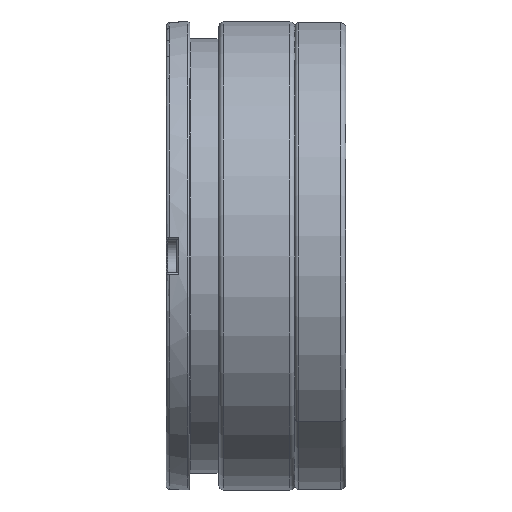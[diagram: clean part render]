
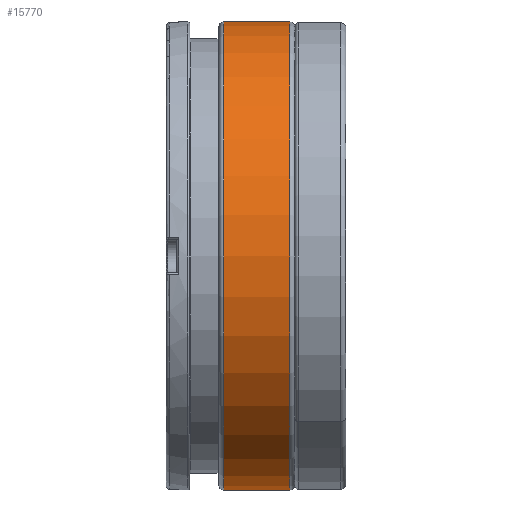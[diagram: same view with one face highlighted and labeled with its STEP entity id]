
A CAD part, front view. The second image highlights one B-rep face of the part: STEP entity #15770.
In plain terms, the highlighted cylindrical face has radius 69 mm (diameter 138 mm), a partial arc.
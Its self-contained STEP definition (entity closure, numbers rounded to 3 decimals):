
#2988 = ORIENTED_EDGE ( 'NONE', *, *, #27546, .T. ) ;
#3100 = FACE_OUTER_BOUND ( 'NONE', #25339, .T. ) ;
#4175 = DIRECTION ( 'NONE',  ( 0., 0., 1. ) ) ;
#5798 = DIRECTION ( 'NONE',  ( 1., 0., 0. ) ) ;
#7863 = DIRECTION ( 'NONE',  ( -1., 0., 0. ) ) ;
#8581 = ORIENTED_EDGE ( 'NONE', *, *, #19228, .F. ) ;
#9311 = CARTESIAN_POINT ( 'NONE',  ( -105.163, -18.04, 96.3 ) ) ;
#12128 = VECTOR ( 'NONE', #37962, 1000. ) ;
#13747 = CARTESIAN_POINT ( 'NONE',  ( -126.163, -18.04, 234.3 ) ) ;
#15770 = ADVANCED_FACE ( 'NONE', ( #3100 ), #20908, .T. ) ;
#16727 = AXIS2_PLACEMENT_3D ( 'NONE', #33607, #25952, #26414 ) ;
#17601 = CARTESIAN_POINT ( 'NONE',  ( -106.663, -18.04, 234.3 ) ) ;
#18015 = EDGE_CURVE ( 'NONE', #22219, #31245, #19418, .T. ) ;
#18078 = VECTOR ( 'NONE', #5798, 1000. ) ;
#18079 = EDGE_CURVE ( 'NONE', #25594, #18260, #31965, .T. ) ;
#18260 = VERTEX_POINT ( 'NONE', #34910 ) ;
#19228 = EDGE_CURVE ( 'NONE', #25594, #31245, #27803, .T. ) ;
#19418 = CIRCLE ( 'NONE', #33675, 69. ) ;
#20908 = CYLINDRICAL_SURFACE ( 'NONE', #16727, 69. ) ;
#22219 = VERTEX_POINT ( 'NONE', #40738 ) ;
#24517 = AXIS2_PLACEMENT_3D ( 'NONE', #25996, #33326, #4175 ) ;
#25339 = EDGE_LOOP ( 'NONE', ( #8581, #41358, #2988, #26560 ) ) ;
#25594 = VERTEX_POINT ( 'NONE', #13747 ) ;
#25952 = DIRECTION ( 'NONE',  ( 1., 0., 0. ) ) ;
#25996 = CARTESIAN_POINT ( 'NONE',  ( -126.163, -18.04, 165.3 ) ) ;
#26155 = DIRECTION ( 'NONE',  ( 0., 0., -1. ) ) ;
#26414 = DIRECTION ( 'NONE',  ( 0., 0., -1. ) ) ;
#26560 = ORIENTED_EDGE ( 'NONE', *, *, #18015, .T. ) ;
#27546 = EDGE_CURVE ( 'NONE', #18260, #22219, #37335, .T. ) ;
#27803 = LINE ( 'NONE', #42222, #18078 ) ;
#31245 = VERTEX_POINT ( 'NONE', #17601 ) ;
#31965 = CIRCLE ( 'NONE', #24517, 69. ) ;
#33326 = DIRECTION ( 'NONE',  ( 1., 0., 0. ) ) ;
#33607 = CARTESIAN_POINT ( 'NONE',  ( -105.163, -18.04, 165.3 ) ) ;
#33675 = AXIS2_PLACEMENT_3D ( 'NONE', #43952, #7863, #26155 ) ;
#34910 = CARTESIAN_POINT ( 'NONE',  ( -126.163, -18.04, 96.3 ) ) ;
#37335 = LINE ( 'NONE', #9311, #12128 ) ;
#37962 = DIRECTION ( 'NONE',  ( 1., 0., 0. ) ) ;
#40738 = CARTESIAN_POINT ( 'NONE',  ( -106.663, -18.04, 96.3 ) ) ;
#41358 = ORIENTED_EDGE ( 'NONE', *, *, #18079, .T. ) ;
#42222 = CARTESIAN_POINT ( 'NONE',  ( -105.163, -18.04, 234.3 ) ) ;
#43952 = CARTESIAN_POINT ( 'NONE',  ( -106.663, -18.04, 165.3 ) ) ;
